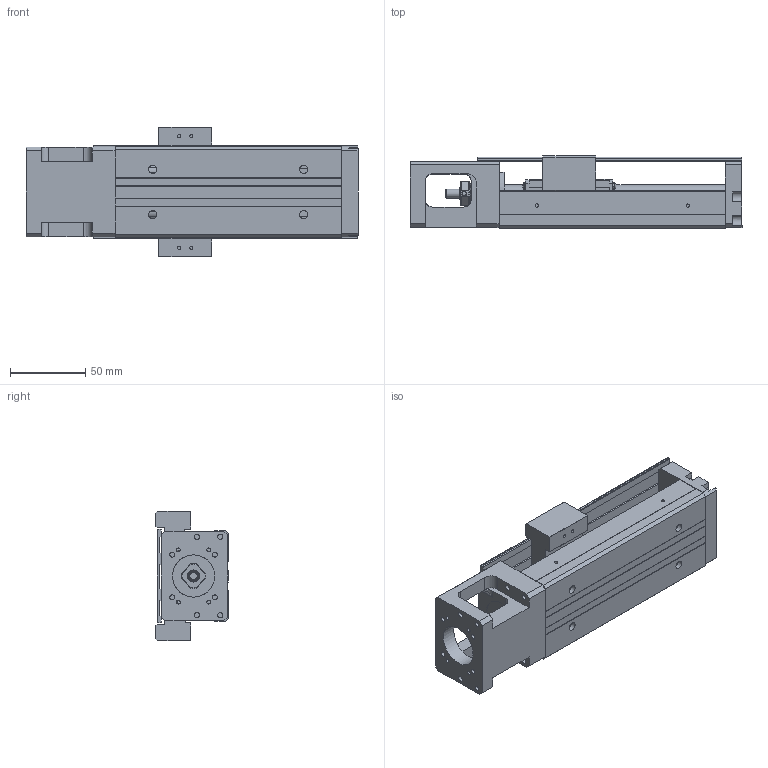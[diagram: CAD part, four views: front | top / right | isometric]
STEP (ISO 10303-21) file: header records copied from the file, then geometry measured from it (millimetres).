
FILE_DESCRIPTION(/* description */ (''),/* implementation_level */ '2;1');
FILE_NAME(/* name */ '33S-150C.stp',/* time_stamp */ '2016-12-20T13:34:24+08:00',/* author */ (''),/* organization */ (''),/* preprocessor_version */ 'ST-DEVELOPER v11',/* originating_system */ 'SIEMENS UGS NX 6.0',/* authorisation */ '');
FILE_SCHEMA (('AUTOMOTIVE_DESIGN { 1 0 10303 214 1 1 1 1 }'));
Length unit declared in the file: millimetre
Products named in the file (1): model4
Bounding box: 220 x 47.95 x 86 mm (x, y, z)
Volume: 355436.8 mm3; surface area: 120208.7 mm2
Topology: 7 solids, 12 shells, 655 faces, 1690 edges, 1116 vertices
Faces by surface type: plane 399, cylinder 171, bspline 31, cone 22, extrusion 21, torus 9, revolution 2
Full cylindrical faces by diameter (mm): 1.6 x1, 1.65 x4, 2.15 x6, 2.42 x4, 2.45 x8, 2.5 x8, 3.2 x4, 3.3 x4, 3.4 x4, 3.5 x10, 3.969 x1, 4 x4, 4.001 x1, 4.135 x2, 4.2 x2, 5.5 x4, 6 x5, 7.6 x1, 8 x5, 9.5 x4, 10.72 x3, 11.8 x2, 12 x1, 12.8 x1, 13 x2, 14 x1, 17.38 x3, 21.5 x1, 22 x2, 28 x1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
Entity records: 34969 total; most frequent: CARTESIAN_POINT 16138, DIRECTION 3014, ORIENTED_EDGE 2980, EDGE_CURVE 1490, VERTEX_POINT 1047, AXIS2_PLACEMENT_3D 1031, VECTOR 950, LINE 929
